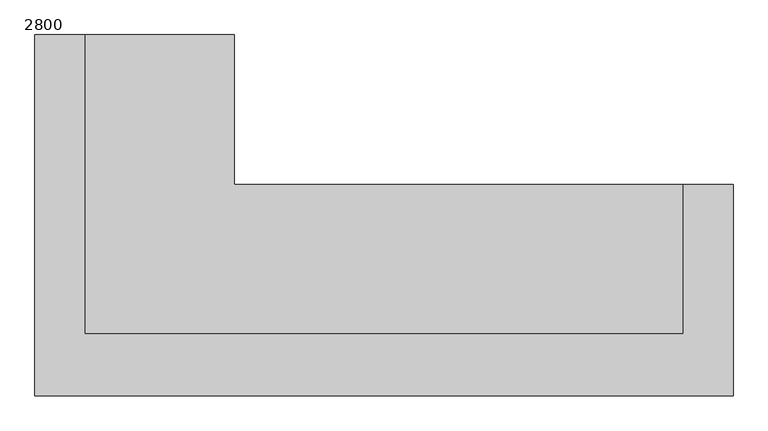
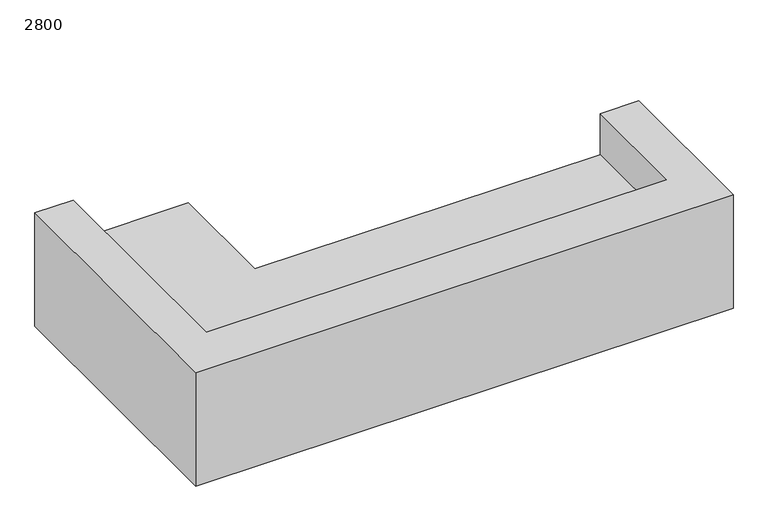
"""IFC4 building model written with IfcOpenShell, lengths in millimetres: furniture geometry, Fu_диван угловой_LEG : 2800."""

from ifc_helpers import new_model, si_unit, origin, origin_with_axes, place, context, project, spatial, polyline, outline, extrude, source, transform, mapped, element, save


def furniture_2800_f949d8bc(model_context):
    return source(origin(), model_context, "Body", "SweptSolid", [
        extrude(outline(polyline([(2573.3737705, -891.7770492), (-226.6262295, -891.7770492), (-226.6262295, 558.2229508), (-26.6262295, 558.2229508), (-26.6262295, -641.7770492), (2373.3737705, -641.7770492), (2373.3737705, -41.7770492), (2573.3737705, -41.7770492), (2573.3737705, -891.7770492)])), origin_with_axes(), (0.0, 0.0, 1.0), 625.0),
        extrude(outline(polyline([(2373.3737705, -41.7770492), (2373.3737705, -641.7770492), (-26.6262295, -641.7770492), (-26.6262295, 558.2229508), (573.3737705, 558.2229508), (573.3737705, -41.7770492), (2373.3737705, -41.7770492)])), origin_with_axes(), (0.0, 0.0, 1.0), 400.0),
    ])


if __name__ == "__main__":
    model = new_model("IFC4")
    model_context = context("Model", 3, world=origin())
    ifc_project = project(units=[si_unit("LENGTHUNIT", "METRE", prefix="MILLI")], contexts=[model_context])
    site = spatial("IfcSite", under=ifc_project)
    building = spatial("IfcBuilding", under=site)
    placement = place(None, origin())
    furniture_2800_shape = furniture_2800_f949d8bc(model_context)
    element("IfcFurniture", 1, ObjectType="Fu_диван угловой_LEG : 2800", at=placement, inside=building, context=model_context, shape_type="MappedRepresentation", body=[
        mapped(furniture_2800_shape, transform((0.0, 0.0, 0.0), x_axis=(1.0, 0.0, 0.0), y_axis=(0.0, 1.0, 0.0), z_axis=(0.0, 0.0, 1.0))),
    ])
    save(model, "model.ifc")
